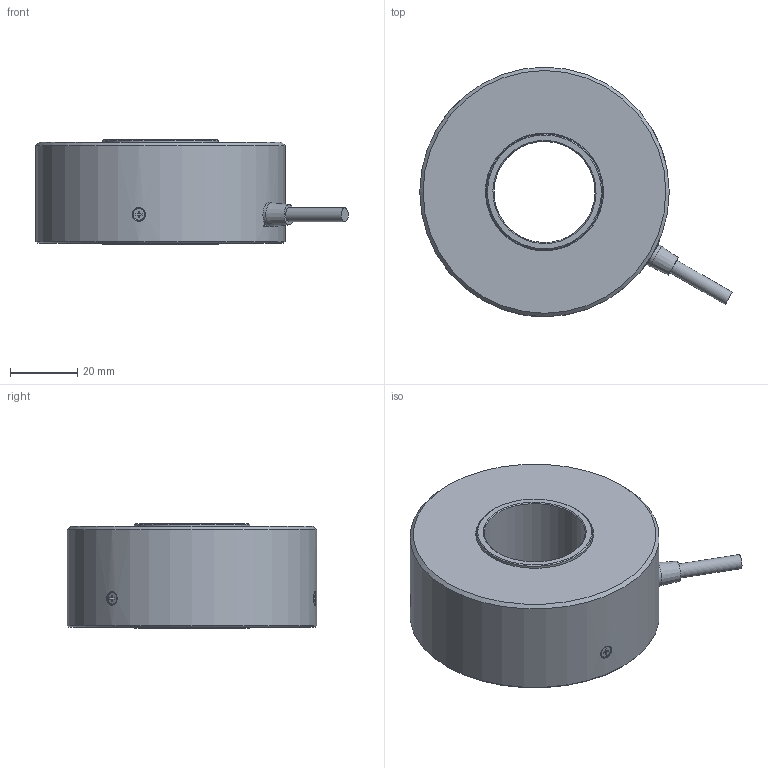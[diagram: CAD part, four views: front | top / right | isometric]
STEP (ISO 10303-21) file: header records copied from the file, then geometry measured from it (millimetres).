
FILE_DESCRIPTION(('STEP AP214'),'1');
FILE_NAME('P.stp','2023-02-20T06:28:29',(' '),(' '),'Spatial InterOp 3D',' ',' ');
FILE_SCHEMA(('AUTOMOTIVE_DESIGN { 1 0 10303 214 1 1 1 1 }'));
Length unit declared in the file: millimetre
Products named in the file (1): L6A04A MEH-60-＊＊＊P
Bounding box: 92.7 x 74 x 31.1 mm (x, y, z)
Volume: 107672 mm3; surface area: 19212 mm2
Topology: 1 solids, 4 shells, 119 faces, 276 edges, 178 vertices
Faces by surface type: plane 66, cylinder 37, cone 16
Full cylindrical faces by diameter (mm): 2 x8, 2.3 x3, 3.3 x6, 3.5 x3, 4 x3, 4.2 x1, 7 x1, 30 x1, 34.4 x1, 35 x2, 40 x1, 45 x1, 47 x1, 74 x1
Entity records: 4388 total; most frequent: CARTESIAN_POINT 931, DIRECTION 498, ORIENTED_EDGE 416, EDGE_CURVE 208, EDGE_LOOP 189, AXIS2_PLACEMENT_3D 183, VERTEX_POINT 162, FACE_OUTER_BOUND 152
